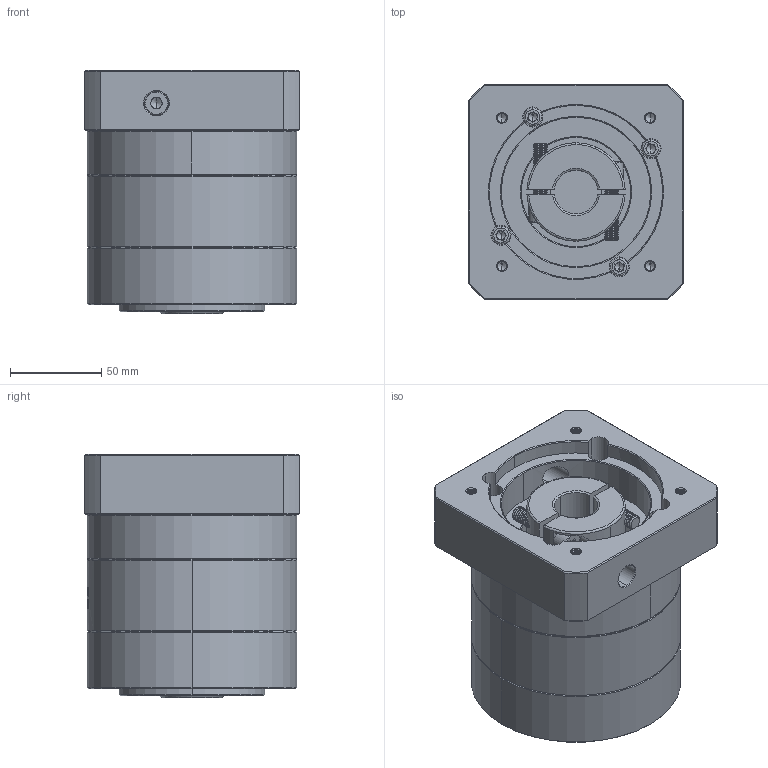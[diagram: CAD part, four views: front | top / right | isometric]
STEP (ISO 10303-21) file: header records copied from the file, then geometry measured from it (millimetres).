
FILE_DESCRIPTION (( 'STEP AP214' ), '1' );
FILE_NAME ('ZE120A-K25-L1-P2-24-95-115-M6.step', '2023-08-28T08:40:54', ( '' ), ( '' ), 'SwSTEP 2.0', 'SolidWorks 2016', '' );
FILE_SCHEMA (( 'AUTOMOTIVE_DESIGN' ));
Length unit declared in the file: millimetre
Products named in the file (1): ZE120A-K25-L1-P2-24-95-115-M6
Bounding box: 118 x 118 x 133.5 mm (x, y, z)
Volume: 1258309.6 mm3; surface area: 151724.5 mm2
Topology: 6 solids, 6 shells, 2265 faces, 6076 edges, 3911 vertices
Faces by surface type: plane 1006, cylinder 486, bspline 442, cone 331
Entity records: 129047 total; most frequent: CARTESIAN_POINT 53481, ORIENTED_EDGE 12080, DIRECTION 8573, EDGE_CURVE 6040, VERTEX_POINT 3911, LINE 3105, VECTOR 3105, AXIS2_PLACEMENT_3D 2734
